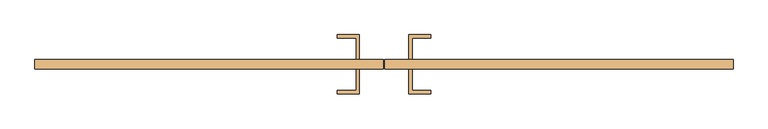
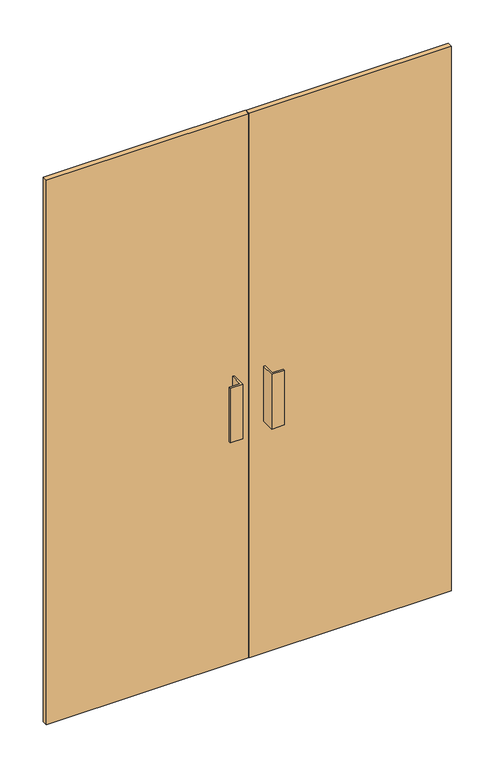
"""IFC4 building model written with IfcOpenShell, lengths in millimetres: door geometry, Дверь-Витраж-Двойная-Остекление : Дверь-Витраж-Двойная-Остекление."""

from ifc_helpers import new_model, si_unit, frame, origin, origin_with_axes, place, context, project, spatial, polyline, outline, extrude, source, transform, mapped, element, save


def door_45342dbe(model_context):
    return source(origin(), model_context, "Body", "SweptSolid", [
        extrude(outline(polyline([(-1.5643999, 31.75), (-712.5, 31.75), (-712.5, 50.8), (-1.5643999, 50.8), (-1.5643999, 31.75)])), origin_with_axes(), (0.0, 0.0, 1.0), 2025.0),
        extrude(outline(polyline([(712.5, 31.75), (1.6106001, 31.75), (1.6106001, 50.8), (712.5, 50.8), (712.5, 31.75)])), origin_with_axes(), (0.0, 0.0, 1.0), 2025.0),
        extrude(outline(polyline([(-50.7768999, 101.6), (-50.7768999, 50.8), (-57.1268999, 50.8), (-57.1268999, 95.25), (-95.2268999, 95.25), (-95.2268999, 101.6), (-50.7768999, 101.6)])), frame((0.0, 0.0, 863.6), z_axis=(0.0, 0.0, 1.0), x_axis=(1.0, 0.0, 0.0)), (0.0, 0.0, 1.0), 203.2),
        extrude(outline(polyline([(50.8231001, 101.6), (95.2731001, 101.6), (95.2731001, 95.25), (57.1731001, 95.25), (57.1731001, 50.8), (50.8231001, 50.8), (50.8231001, 101.6)])), frame((0.0, 0.0, 863.6), z_axis=(0.0, 0.0, 1.0), x_axis=(1.0, 0.0, 0.0)), (0.0, 0.0, 1.0), 203.2),
        extrude(outline(polyline([(-50.7768999, -19.05), (-95.2268999, -19.05), (-95.2268999, -12.7), (-57.1268999, -12.7), (-57.1268999, 31.75), (-50.7768999, 31.75), (-50.7768999, -19.05)])), frame((0.0, 0.0, 863.6), z_axis=(0.0, 0.0, 1.0), x_axis=(1.0, 0.0, 0.0)), (0.0, 0.0, 1.0), 203.2),
        extrude(outline(polyline([(50.8231001, -19.05), (50.8231001, 31.75), (57.1731001, 31.75), (57.1731001, -12.7), (95.2731001, -12.7), (95.2731001, -19.05), (50.8231001, -19.05)])), frame((0.0, 0.0, 863.6), z_axis=(0.0, 0.0, 1.0), x_axis=(1.0, 0.0, 0.0)), (0.0, 0.0, 1.0), 203.2),
    ])


if __name__ == "__main__":
    model = new_model("IFC4")
    model_context = context("Model", 3, world=origin())
    ifc_project = project(units=[si_unit("LENGTHUNIT", "METRE", prefix="MILLI")], contexts=[model_context])
    site = spatial("IfcSite", under=ifc_project)
    building = spatial("IfcBuilding", under=site)
    placement = place(None, origin())
    door_shape = door_45342dbe(model_context)
    element("IfcDoor", 1, ObjectType="Дверь-Витраж-Двойная-Остекление : Дверь-Витраж-Двойная-Остекление", at=placement, inside=building, context=model_context, shape_type="MappedRepresentation", body=[
        mapped(door_shape, transform((0.0, 0.0, 0.0), x_axis=(1.0, 0.0, 0.0), y_axis=(0.0, 1.0, 0.0), z_axis=(0.0, 0.0, 1.0))),
    ])
    save(model, "model.ifc")
